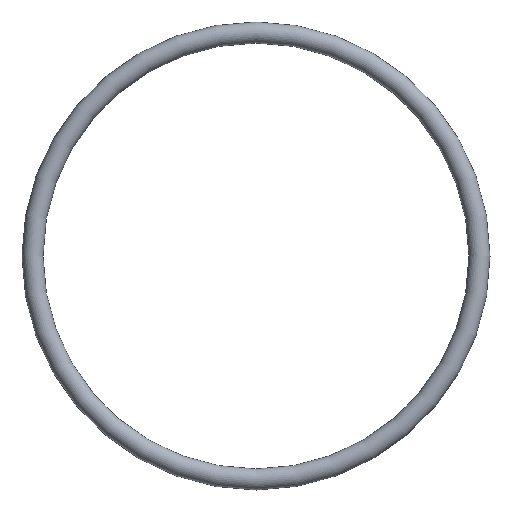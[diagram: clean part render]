
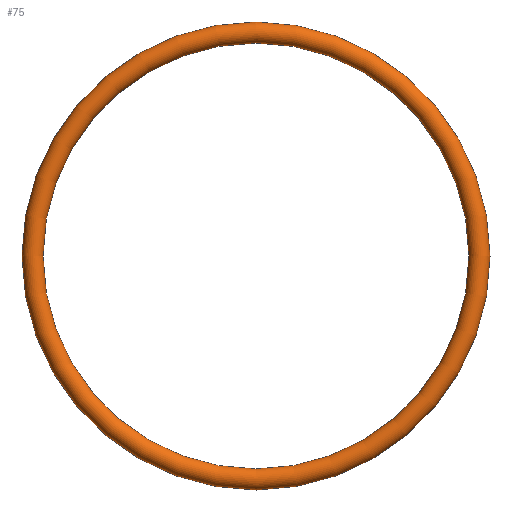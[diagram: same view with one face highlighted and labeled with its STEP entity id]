
A CAD part, front view. The second image highlights one B-rep face of the part: STEP entity #75.
In plain terms, the highlighted toroidal (fillet/blend) face has major radius 37.485 mm and minor radius 1.765 mm.
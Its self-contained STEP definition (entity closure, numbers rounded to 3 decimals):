
#75 = ADVANCED_FACE( '', ( #77 ), #78, .T. );
#77 = FACE_BOUND( '', #79, .T. );
#78 = TOROIDAL_SURFACE( '', #80, 37.485, 1.765 );
#79 = VERTEX_LOOP( '', #81 );
#80 = AXIS2_PLACEMENT_3D( '', #82, #83, #84 );
#81 = VERTEX_POINT( '', #85 );
#82 = CARTESIAN_POINT( '', ( 0., 0., 0. ) );
#83 = DIRECTION( '', ( 0., -1., 0. ) );
#84 = DIRECTION( '', ( 0., 0., -1. ) );
#85 = CARTESIAN_POINT( '', ( 0., 0., -39.25 ) );
